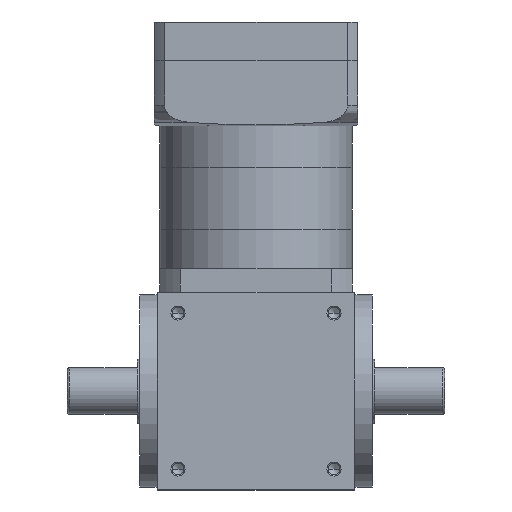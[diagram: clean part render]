
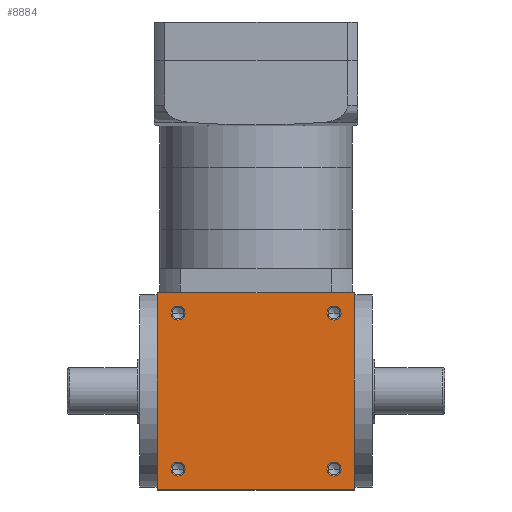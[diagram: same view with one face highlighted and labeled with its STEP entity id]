
A CAD part, front view. The second image highlights one B-rep face of the part: STEP entity #8884.
In plain terms, the highlighted planar face has unit normal (0, -1, 0).
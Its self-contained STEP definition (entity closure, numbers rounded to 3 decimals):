
#1547 = DIRECTION ( 'NONE',  ( 0., -1., 0. ) ) ;
#1881 = LINE ( 'NONE', #48889, #22926 ) ;
#2019 = FACE_BOUND ( 'NONE', #38098, .T. ) ;
#2024 = VERTEX_POINT ( 'NONE', #49922 ) ;
#2034 = EDGE_CURVE ( 'NONE', #14469, #50781, #37597, .T. ) ;
#3767 = EDGE_LOOP ( 'NONE', ( #38660, #13336 ) ) ;
#4049 = VECTOR ( 'NONE', #37224, 1000. ) ;
#4202 = CARTESIAN_POINT ( 'NONE',  ( 67., -85., 24.025 ) ) ;
#5165 = LINE ( 'NONE', #13350, #48577 ) ;
#6700 = CARTESIAN_POINT ( 'NONE',  ( -67., -85., 145.975 ) ) ;
#6976 = DIRECTION ( 'NONE',  ( -1., 0., 0. ) ) ;
#7405 = ORIENTED_EDGE ( 'NONE', *, *, #35041, .F. ) ;
#7615 = AXIS2_PLACEMENT_3D ( 'NONE', #8248, #37649, #12483 ) ;
#8248 = CARTESIAN_POINT ( 'NONE',  ( -67., -85., 18. ) ) ;
#8884 = ADVANCED_FACE ( 'NONE', ( #2019, #21736, #10579, #53975, #42789 ), #10516, .F. ) ;
#9113 = AXIS2_PLACEMENT_3D ( 'NONE', #47186, #22001, #51422 ) ;
#9553 = CARTESIAN_POINT ( 'NONE',  ( -67., -85., 152. ) ) ;
#10028 = CARTESIAN_POINT ( 'NONE',  ( 67., -85., 158.025 ) ) ;
#10224 = ORIENTED_EDGE ( 'NONE', *, *, #27835, .F. ) ;
#10487 = CIRCLE ( 'NONE', #50127, 6.025 ) ;
#10516 = PLANE ( 'NONE',  #44107 ) ;
#10523 = VERTEX_POINT ( 'NONE', #4202 ) ;
#10579 = FACE_BOUND ( 'NONE', #3767, .T. ) ;
#10596 = EDGE_CURVE ( 'NONE', #10523, #52974, #10487, .T. ) ;
#12483 = DIRECTION ( 'NONE',  ( 0., 0., -1. ) ) ;
#12701 = VERTEX_POINT ( 'NONE', #10028 ) ;
#12928 = ORIENTED_EDGE ( 'NONE', *, *, #17320, .F. ) ;
#13045 = DIRECTION ( 'NONE',  ( 0., -1., 0. ) ) ;
#13336 = ORIENTED_EDGE ( 'NONE', *, *, #10596, .F. ) ;
#13350 = CARTESIAN_POINT ( 'NONE',  ( 84.5, -85., 170. ) ) ;
#13490 = EDGE_CURVE ( 'NONE', #30403, #22554, #27911, .T. ) ;
#13793 = DIRECTION ( 'NONE',  ( 0., 0., -1. ) ) ;
#14125 = VERTEX_POINT ( 'NONE', #6700 ) ;
#14222 = CARTESIAN_POINT ( 'NONE',  ( 67., -85., 152. ) ) ;
#14469 = VERTEX_POINT ( 'NONE', #42371 ) ;
#14955 = CIRCLE ( 'NONE', #40278, 6.025 ) ;
#15308 = CARTESIAN_POINT ( 'NONE',  ( 84.5, -85., 169.5 ) ) ;
#15825 = CIRCLE ( 'NONE', #22386, 6.025 ) ;
#15993 = CIRCLE ( 'NONE', #52503, 6.025 ) ;
#16399 = EDGE_LOOP ( 'NONE', ( #44316, #10224 ) ) ;
#17320 = EDGE_CURVE ( 'NONE', #50781, #19261, #5165, .T. ) ;
#18157 = DIRECTION ( 'NONE',  ( 0., -1., 0. ) ) ;
#18441 = DIRECTION ( 'NONE',  ( 0., 0., -1. ) ) ;
#19261 = VERTEX_POINT ( 'NONE', #34038 ) ;
#21736 = FACE_BOUND ( 'NONE', #33934, .T. ) ;
#21909 = CIRCLE ( 'NONE', #9113, 6.025 ) ;
#22001 = DIRECTION ( 'NONE',  ( 0., -1., 0. ) ) ;
#22386 = AXIS2_PLACEMENT_3D ( 'NONE', #9553, #38961, #13793 ) ;
#22554 = VERTEX_POINT ( 'NONE', #50783 ) ;
#22926 = VECTOR ( 'NONE', #6976, 1000. ) ;
#23173 = CARTESIAN_POINT ( 'NONE',  ( -85., -85., 170. ) ) ;
#23721 = EDGE_CURVE ( 'NONE', #14125, #2024, #21909, .T. ) ;
#24287 = DIRECTION ( 'NONE',  ( 0., -1., 0. ) ) ;
#25542 = CARTESIAN_POINT ( 'NONE',  ( -67., -85., 11.975 ) ) ;
#26735 = CARTESIAN_POINT ( 'NONE',  ( 67., -85., 18. ) ) ;
#27251 = DIRECTION ( 'NONE',  ( 0., 0., 1. ) ) ;
#27417 = DIRECTION ( 'NONE',  ( 0., 0., 1. ) ) ;
#27477 = AXIS2_PLACEMENT_3D ( 'NONE', #49480, #24287, #53728 ) ;
#27835 = EDGE_CURVE ( 'NONE', #22554, #30403, #41330, .T. ) ;
#27911 = CIRCLE ( 'NONE', #7615, 6.025 ) ;
#28392 = EDGE_CURVE ( 'NONE', #52974, #10523, #14955, .T. ) ;
#30403 = VERTEX_POINT ( 'NONE', #25542 ) ;
#30635 = VECTOR ( 'NONE', #27251, 1000. ) ;
#30983 = DIRECTION ( 'NONE',  ( 0., 0., -1. ) ) ;
#31176 = ORIENTED_EDGE ( 'NONE', *, *, #2034, .F. ) ;
#31486 = CARTESIAN_POINT ( 'NONE',  ( -84.5, -85., 170. ) ) ;
#32870 = ORIENTED_EDGE ( 'NONE', *, *, #52772, .F. ) ;
#33934 = EDGE_LOOP ( 'NONE', ( #50248, #52799 ) ) ;
#34038 = CARTESIAN_POINT ( 'NONE',  ( 84.5, -85., 0.5 ) ) ;
#35041 = EDGE_CURVE ( 'NONE', #19261, #37763, #1881, .T. ) ;
#37224 = DIRECTION ( 'NONE',  ( 1., 0., 0. ) ) ;
#37452 = VERTEX_POINT ( 'NONE', #43442 ) ;
#37597 = LINE ( 'NONE', #45687, #4049 ) ;
#37649 = DIRECTION ( 'NONE',  ( 0., -1., 0. ) ) ;
#37738 = ORIENTED_EDGE ( 'NONE', *, *, #23721, .F. ) ;
#37763 = VERTEX_POINT ( 'NONE', #50179 ) ;
#38011 = CIRCLE ( 'NONE', #27477, 6.025 ) ;
#38098 = EDGE_LOOP ( 'NONE', ( #37738, #54349 ) ) ;
#38225 = CARTESIAN_POINT ( 'NONE',  ( 67., -85., 18. ) ) ;
#38660 = ORIENTED_EDGE ( 'NONE', *, *, #28392, .F. ) ;
#38961 = DIRECTION ( 'NONE',  ( 0., -1., 0. ) ) ;
#40278 = AXIS2_PLACEMENT_3D ( 'NONE', #26735, #1547, #30983 ) ;
#41330 = CIRCLE ( 'NONE', #53660, 6.025 ) ;
#41536 = CARTESIAN_POINT ( 'NONE',  ( 67., -85., 11.975 ) ) ;
#42371 = CARTESIAN_POINT ( 'NONE',  ( -84.5, -85., 169.5 ) ) ;
#42430 = DIRECTION ( 'NONE',  ( 0., 0., -1. ) ) ;
#42754 = DIRECTION ( 'NONE',  ( 0., 0., -1. ) ) ;
#42789 = FACE_OUTER_BOUND ( 'NONE', #45229, .T. ) ;
#43181 = EDGE_CURVE ( 'NONE', #12701, #37452, #38011, .T. ) ;
#43334 = CARTESIAN_POINT ( 'NONE',  ( -67., -85., 18. ) ) ;
#43442 = CARTESIAN_POINT ( 'NONE',  ( 67., -85., 145.975 ) ) ;
#43616 = DIRECTION ( 'NONE',  ( 0., -1., 0. ) ) ;
#44107 = AXIS2_PLACEMENT_3D ( 'NONE', #23173, #52597, #27417 ) ;
#44316 = ORIENTED_EDGE ( 'NONE', *, *, #13490, .F. ) ;
#45229 = EDGE_LOOP ( 'NONE', ( #7405, #12928, #31176, #32870 ) ) ;
#45687 = CARTESIAN_POINT ( 'NONE',  ( -85., -85., 169.5 ) ) ;
#47186 = CARTESIAN_POINT ( 'NONE',  ( -67., -85., 152. ) ) ;
#47564 = DIRECTION ( 'NONE',  ( 0., 0., -1. ) ) ;
#48577 = VECTOR ( 'NONE', #42754, 1000. ) ;
#48889 = CARTESIAN_POINT ( 'NONE',  ( -85., -85., 0.5 ) ) ;
#49049 = EDGE_CURVE ( 'NONE', #2024, #14125, #15825, .T. ) ;
#49480 = CARTESIAN_POINT ( 'NONE',  ( 67., -85., 152. ) ) ;
#49922 = CARTESIAN_POINT ( 'NONE',  ( -67., -85., 158.025 ) ) ;
#50127 = AXIS2_PLACEMENT_3D ( 'NONE', #38225, #13045, #42430 ) ;
#50179 = CARTESIAN_POINT ( 'NONE',  ( -84.5, -85., 0.5 ) ) ;
#50248 = ORIENTED_EDGE ( 'NONE', *, *, #54219, .F. ) ;
#50781 = VERTEX_POINT ( 'NONE', #15308 ) ;
#50783 = CARTESIAN_POINT ( 'NONE',  ( -67., -85., 24.025 ) ) ;
#51422 = DIRECTION ( 'NONE',  ( 0., 0., -1. ) ) ;
#52503 = AXIS2_PLACEMENT_3D ( 'NONE', #14222, #43616, #18441 ) ;
#52597 = DIRECTION ( 'NONE',  ( 0., 1., 0. ) ) ;
#52772 = EDGE_CURVE ( 'NONE', #37763, #14469, #52984, .T. ) ;
#52799 = ORIENTED_EDGE ( 'NONE', *, *, #43181, .F. ) ;
#52974 = VERTEX_POINT ( 'NONE', #41536 ) ;
#52984 = LINE ( 'NONE', #31486, #30635 ) ;
#53660 = AXIS2_PLACEMENT_3D ( 'NONE', #43334, #18157, #47564 ) ;
#53728 = DIRECTION ( 'NONE',  ( 0., 0., -1. ) ) ;
#53975 = FACE_BOUND ( 'NONE', #16399, .T. ) ;
#54219 = EDGE_CURVE ( 'NONE', #37452, #12701, #15993, .T. ) ;
#54349 = ORIENTED_EDGE ( 'NONE', *, *, #49049, .F. ) ;
